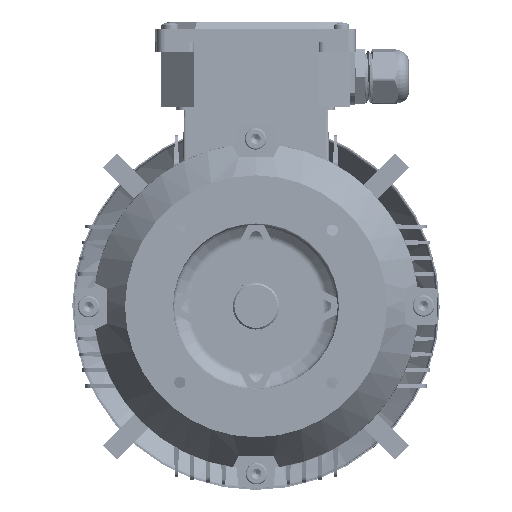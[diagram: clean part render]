
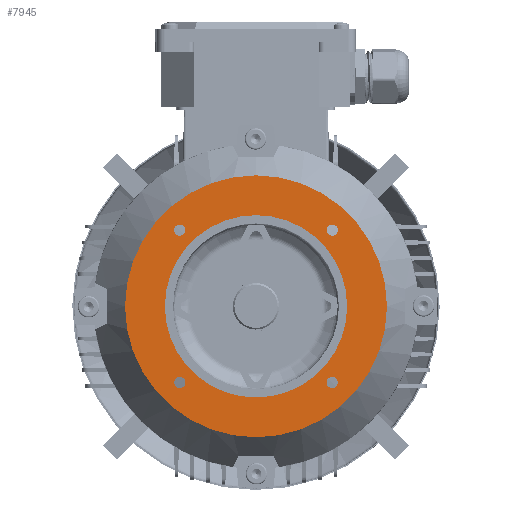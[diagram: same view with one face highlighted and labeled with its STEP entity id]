
A CAD part, front view. The second image highlights one B-rep face of the part: STEP entity #7945.
In plain terms, the highlighted planar face has unit normal (0, -1, 0).
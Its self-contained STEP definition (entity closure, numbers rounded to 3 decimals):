
#1016 = CARTESIAN_POINT ( 'NONE',  ( 45.962, 3.5, -45.962 ) ) ;
#2611 = ORIENTED_EDGE ( 'NONE', *, *, #103361, .F. ) ;
#3815 = DIRECTION ( 'NONE',  ( 0., 0., -1. ) ) ;
#4942 = CARTESIAN_POINT ( 'NONE',  ( 45.962, 3.5, 45.962 ) ) ;
#5060 = EDGE_LOOP ( 'NONE', ( #37781, #18003 ) ) ;
#5406 = FACE_BOUND ( 'NONE', #5060, .T. ) ;
#6536 = DIRECTION ( 'NONE',  ( 0., 0., -1. ) ) ;
#6609 = VERTEX_POINT ( 'NONE', #46657 ) ;
#7126 = VERTEX_POINT ( 'NONE', #71511 ) ;
#7161 = AXIS2_PLACEMENT_3D ( 'NONE', #24187, #86617, #33137 ) ;
#7945 = ADVANCED_FACE ( 'NONE', ( #100395, #5406, #55657, #76602, #52857, #97608 ), #67263, .T. ) ;
#8845 = EDGE_CURVE ( 'NONE', #17135, #77810, #42912, .T. ) ;
#9994 = DIRECTION ( 'NONE',  ( 0., 0., -1. ) ) ;
#11748 = AXIS2_PLACEMENT_3D ( 'NONE', #20599, #83071, #29595 ) ;
#11804 = CARTESIAN_POINT ( 'NONE',  ( 45.962, 3.5, 49.362 ) ) ;
#12389 = DIRECTION ( 'NONE',  ( 0., -1., 0. ) ) ;
#12985 = EDGE_CURVE ( 'NONE', #6609, #37940, #61624, .T. ) ;
#13349 = EDGE_CURVE ( 'NONE', #61282, #7126, #81136, .T. ) ;
#13887 = DIRECTION ( 'NONE',  ( 0., 0., -1. ) ) ;
#15080 = ORIENTED_EDGE ( 'NONE', *, *, #13349, .F. ) ;
#15220 = ORIENTED_EDGE ( 'NONE', *, *, #114446, .F. ) ;
#15448 = DIRECTION ( 'NONE',  ( 0., -1., 0. ) ) ;
#16823 = AXIS2_PLACEMENT_3D ( 'NONE', #68908, #15448, #77891 ) ;
#17135 = VERTEX_POINT ( 'NONE', #107410 ) ;
#18003 = ORIENTED_EDGE ( 'NONE', *, *, #81171, .F. ) ;
#18279 = CARTESIAN_POINT ( 'NONE',  ( -45.962, 3.5, -49.362 ) ) ;
#18600 = CARTESIAN_POINT ( 'NONE',  ( 45.962, 3.5, -42.562 ) ) ;
#19693 = EDGE_CURVE ( 'NONE', #77810, #17135, #110221, .T. ) ;
#19872 = CIRCLE ( 'NONE', #91773, 79. ) ;
#20599 = CARTESIAN_POINT ( 'NONE',  ( 0., 3.5, 0. ) ) ;
#23449 = CARTESIAN_POINT ( 'NONE',  ( 0., 3.5, 0. ) ) ;
#24187 = CARTESIAN_POINT ( 'NONE',  ( 45.962, 3.5, 45.962 ) ) ;
#25599 = AXIS2_PLACEMENT_3D ( 'NONE', #1016, #63427, #9994 ) ;
#25684 = DIRECTION ( 'NONE',  ( 0., -1., 0. ) ) ;
#28679 = VERTEX_POINT ( 'NONE', #42803 ) ;
#29595 = DIRECTION ( 'NONE',  ( 0., 0., -1. ) ) ;
#30075 = CIRCLE ( 'NONE', #35109, 3.4 ) ;
#31581 = VERTEX_POINT ( 'NONE', #11804 ) ;
#32397 = DIRECTION ( 'NONE',  ( 0., 0., -1. ) ) ;
#33137 = DIRECTION ( 'NONE',  ( 0., 0., -1. ) ) ;
#34863 = EDGE_LOOP ( 'NONE', ( #58649, #78882 ) ) ;
#35109 = AXIS2_PLACEMENT_3D ( 'NONE', #4942, #67344, #13887 ) ;
#37403 = CIRCLE ( 'NONE', #107483, 3.4 ) ;
#37657 = CARTESIAN_POINT ( 'NONE',  ( 0., 3.5, -79. ) ) ;
#37781 = ORIENTED_EDGE ( 'NONE', *, *, #41411, .F. ) ;
#37940 = VERTEX_POINT ( 'NONE', #18279 ) ;
#39657 = EDGE_CURVE ( 'NONE', #81983, #98254, #49967, .T. ) ;
#41411 = EDGE_CURVE ( 'NONE', #28679, #31581, #30075, .T. ) ;
#42261 = EDGE_LOOP ( 'NONE', ( #60486, #87151 ) ) ;
#42803 = CARTESIAN_POINT ( 'NONE',  ( 45.962, 3.5, 42.562 ) ) ;
#42912 = CIRCLE ( 'NONE', #101801, 3.4 ) ;
#43791 = EDGE_LOOP ( 'NONE', ( #86482, #112964 ) ) ;
#46657 = CARTESIAN_POINT ( 'NONE',  ( -45.962, 3.5, -42.562 ) ) ;
#49967 = CIRCLE ( 'NONE', #56649, 79. ) ;
#50729 = CARTESIAN_POINT ( 'NONE',  ( -45.962, 3.5, -45.962 ) ) ;
#52309 = CARTESIAN_POINT ( 'NONE',  ( -45.962, 3.5, 45.962 ) ) ;
#52857 = FACE_OUTER_BOUND ( 'NONE', #34863, .T. ) ;
#54009 = CARTESIAN_POINT ( 'NONE',  ( 0., 3.5, 79. ) ) ;
#54589 = AXIS2_PLACEMENT_3D ( 'NONE', #76235, #58267, #85215 ) ;
#55311 = CARTESIAN_POINT ( 'NONE',  ( 45.962, 3.5, -49.362 ) ) ;
#55657 = FACE_BOUND ( 'NONE', #43791, .T. ) ;
#56649 = AXIS2_PLACEMENT_3D ( 'NONE', #79138, #25684, #88119 ) ;
#57239 = DIRECTION ( 'NONE',  ( 0., -1., 0. ) ) ;
#57747 = CIRCLE ( 'NONE', #7161, 3.4 ) ;
#58267 = DIRECTION ( 'NONE',  ( 0., -1., 0. ) ) ;
#58649 = ORIENTED_EDGE ( 'NONE', *, *, #82870, .T. ) ;
#59675 = DIRECTION ( 'NONE',  ( 0., 0., -1. ) ) ;
#59938 = DIRECTION ( 'NONE',  ( 0., -1., 0. ) ) ;
#60486 = ORIENTED_EDGE ( 'NONE', *, *, #8845, .F. ) ;
#60665 = EDGE_LOOP ( 'NONE', ( #2611, #15080 ) ) ;
#61271 = DIRECTION ( 'NONE',  ( 0., 0., -1. ) ) ;
#61282 = VERTEX_POINT ( 'NONE', #64829 ) ;
#61624 = CIRCLE ( 'NONE', #98400, 3.4 ) ;
#63427 = DIRECTION ( 'NONE',  ( 0., -1., 0. ) ) ;
#63856 = EDGE_CURVE ( 'NONE', #37940, #6609, #102839, .T. ) ;
#64829 = CARTESIAN_POINT ( 'NONE',  ( 0., 3.5, 55. ) ) ;
#65828 = CARTESIAN_POINT ( 'NONE',  ( -45.962, 3.5, -45.962 ) ) ;
#67263 = PLANE ( 'NONE',  #54589 ) ;
#67344 = DIRECTION ( 'NONE',  ( 0., -1., 0. ) ) ;
#68908 = CARTESIAN_POINT ( 'NONE',  ( 0., 3.5, 0. ) ) ;
#71511 = CARTESIAN_POINT ( 'NONE',  ( 0., 3.5, -55. ) ) ;
#72774 = VERTEX_POINT ( 'NONE', #18600 ) ;
#74789 = DIRECTION ( 'NONE',  ( 0., 0., -1. ) ) ;
#76235 = CARTESIAN_POINT ( 'NONE',  ( 55., 3.5, 0. ) ) ;
#76602 = FACE_BOUND ( 'NONE', #111181, .T. ) ;
#77810 = VERTEX_POINT ( 'NONE', #98800 ) ;
#77891 = DIRECTION ( 'NONE',  ( 0., 0., -1. ) ) ;
#78882 = ORIENTED_EDGE ( 'NONE', *, *, #39657, .T. ) ;
#79138 = CARTESIAN_POINT ( 'NONE',  ( 0., 3.5, 0. ) ) ;
#81136 = CIRCLE ( 'NONE', #11748, 55. ) ;
#81171 = EDGE_CURVE ( 'NONE', #31581, #28679, #57747, .T. ) ;
#81473 = VERTEX_POINT ( 'NONE', #55311 ) ;
#81983 = VERTEX_POINT ( 'NONE', #37657 ) ;
#82870 = EDGE_CURVE ( 'NONE', #98254, #81983, #19872, .T. ) ;
#83071 = DIRECTION ( 'NONE',  ( 0., -1., 0. ) ) ;
#85215 = DIRECTION ( 'NONE',  ( 0., 0., -1. ) ) ;
#85750 = AXIS2_PLACEMENT_3D ( 'NONE', #65828, #12389, #74789 ) ;
#85882 = DIRECTION ( 'NONE',  ( 0., -1., 0. ) ) ;
#86482 = ORIENTED_EDGE ( 'NONE', *, *, #63856, .F. ) ;
#86617 = DIRECTION ( 'NONE',  ( 0., -1., 0. ) ) ;
#87151 = ORIENTED_EDGE ( 'NONE', *, *, #19693, .F. ) ;
#87477 = CIRCLE ( 'NONE', #25599, 3.4 ) ;
#88049 = EDGE_CURVE ( 'NONE', #72774, #81473, #87477, .T. ) ;
#88119 = DIRECTION ( 'NONE',  ( 0., 0., -1. ) ) ;
#91773 = AXIS2_PLACEMENT_3D ( 'NONE', #23449, #85882, #32397 ) ;
#94246 = CIRCLE ( 'NONE', #16823, 55. ) ;
#97608 = FACE_BOUND ( 'NONE', #60665, .T. ) ;
#98254 = VERTEX_POINT ( 'NONE', #54009 ) ;
#98400 = AXIS2_PLACEMENT_3D ( 'NONE', #50729, #113199, #59675 ) ;
#98663 = ORIENTED_EDGE ( 'NONE', *, *, #88049, .F. ) ;
#98800 = CARTESIAN_POINT ( 'NONE',  ( -45.962, 3.5, 49.362 ) ) ;
#100395 = FACE_BOUND ( 'NONE', #42261, .T. ) ;
#101801 = AXIS2_PLACEMENT_3D ( 'NONE', #113463, #59938, #6536 ) ;
#102839 = CIRCLE ( 'NONE', #85750, 3.4 ) ;
#103361 = EDGE_CURVE ( 'NONE', #7126, #61282, #94246, .T. ) ;
#107410 = CARTESIAN_POINT ( 'NONE',  ( -45.962, 3.5, 42.562 ) ) ;
#107483 = AXIS2_PLACEMENT_3D ( 'NONE', #110741, #57239, #3815 ) ;
#110221 = CIRCLE ( 'NONE', #112417, 3.4 ) ;
#110741 = CARTESIAN_POINT ( 'NONE',  ( 45.962, 3.5, -45.962 ) ) ;
#111181 = EDGE_LOOP ( 'NONE', ( #15220, #98663 ) ) ;
#112417 = AXIS2_PLACEMENT_3D ( 'NONE', #52309, #114747, #61271 ) ;
#112964 = ORIENTED_EDGE ( 'NONE', *, *, #12985, .F. ) ;
#113199 = DIRECTION ( 'NONE',  ( 0., -1., 0. ) ) ;
#113463 = CARTESIAN_POINT ( 'NONE',  ( -45.962, 3.5, 45.962 ) ) ;
#114446 = EDGE_CURVE ( 'NONE', #81473, #72774, #37403, .T. ) ;
#114747 = DIRECTION ( 'NONE',  ( 0., -1., 0. ) ) ;
